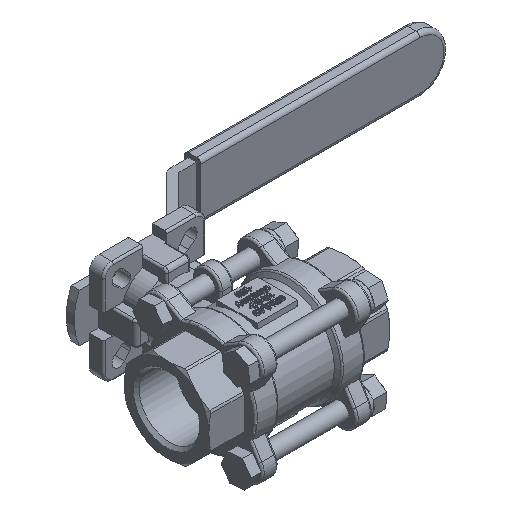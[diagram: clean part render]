
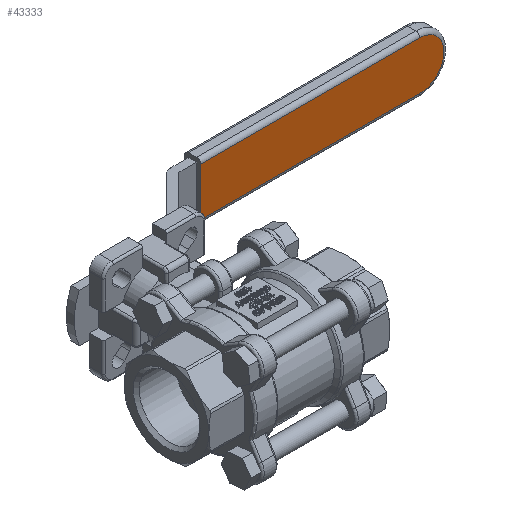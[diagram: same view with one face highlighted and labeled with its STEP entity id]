
A CAD part, isometric view. The second image highlights one B-rep face of the part: STEP entity #43333.
In plain terms, the highlighted planar face has unit normal (0, -1, 0).
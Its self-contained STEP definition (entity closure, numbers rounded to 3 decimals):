
#43216=CARTESIAN_POINT('',(57.,85.,12.));
#43217=VERTEX_POINT('',#43216);
#43225=CARTESIAN_POINT('',(166.,85.,12.));
#43226=VERTEX_POINT('',#43225);
#43227=CARTESIAN_POINT('',(57.,85.,12.));
#43228=DIRECTION('',(1.0,0.0,0.0));
#43229=VECTOR('',#43228,109.);
#43230=LINE('',#43227,#43229);
#43231=EDGE_CURVE('',#43217,#43226,#43230,.T.);
#43256=CARTESIAN_POINT('',(166.,85.,-12.));
#43257=VERTEX_POINT('',#43256);
#43275=CARTESIAN_POINT('',(166.,85.,0.));
#43276=DIRECTION('',(0.0,1.0,0.0));
#43277=DIRECTION('',(1.0,0.0,0.0));
#43278=AXIS2_PLACEMENT_3D('',#43275,#43276,#43277);
#43279=CIRCLE('',#43278,12.);
#43280=EDGE_CURVE('',#43226,#43257,#43279,.T.);
#43290=CARTESIAN_POINT('',(57.,85.,-12.));
#43291=VERTEX_POINT('',#43290);
#43308=CARTESIAN_POINT('',(166.,85.,-12.));
#43309=DIRECTION('',(-1.0,0.0,0.0));
#43310=VECTOR('',#43309,109.);
#43311=LINE('',#43308,#43310);
#43312=EDGE_CURVE('',#43257,#43291,#43311,.T.);
#43317=CARTESIAN_POINT('',(57.,85.,-14.));
#43318=DIRECTION('',(0.0,-1.0,0.0));
#43319=DIRECTION('',(0.0,0.0,-1.0));
#43320=AXIS2_PLACEMENT_3D('',#43317,#43318,#43319);
#43321=PLANE('',#43320);
#43322=ORIENTED_EDGE('',*,*,#43312,.F.);
#43323=ORIENTED_EDGE('',*,*,#43280,.F.);
#43324=ORIENTED_EDGE('',*,*,#43231,.F.);
#43325=CARTESIAN_POINT('',(57.,85.,-12.));
#43326=DIRECTION('',(0.0,0.0,1.0));
#43327=VECTOR('',#43326,24.);
#43328=LINE('',#43325,#43327);
#43329=EDGE_CURVE('',#43291,#43217,#43328,.T.);
#43330=ORIENTED_EDGE('',*,*,#43329,.F.);
#43331=EDGE_LOOP('',(#43322,#43323,#43324,#43330));
#43332=FACE_OUTER_BOUND('',#43331,.T.);
#43333=ADVANCED_FACE('',(#43332),#43321,.T.);
